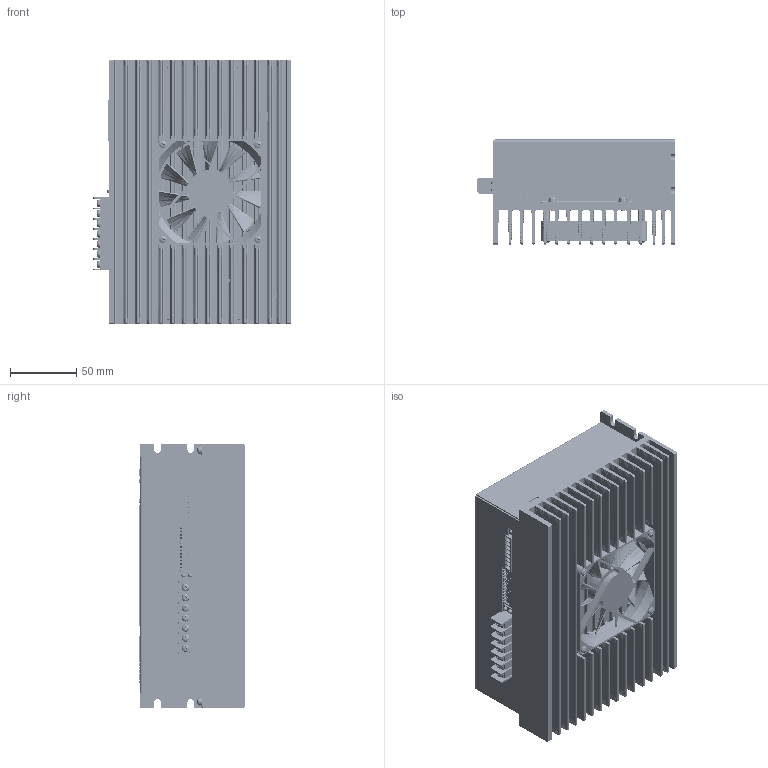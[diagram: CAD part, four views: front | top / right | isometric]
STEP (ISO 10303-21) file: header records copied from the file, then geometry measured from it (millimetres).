
FILE_DESCRIPTION(('CATIA V5 STEP Exchange','CAx-IF Rec.Pracs.--- Composite Materials ---3.4---2017-06-13'),'2;1');
FILE_NAME('E:\【1】\新建文件夹 (138)\DP3L-11022A3-官网图+EPLAN图-240923.stp','2025-04-03T08:12:56+00:00',('none'),('none'),'CATIA Version 5-6 Release 2020','CATIA V5 STEP AP203 v1','none');
FILE_SCHEMA(('CONFIG_CONTROL_DESIGN'));
Products named in the file (1): _model1
Bounding box: 148.64 x 79.2 x 199.5 mm (x, y, z)
Volume: 1481065.3 mm3; surface area: 377298.5 mm2
Topology: 789 solids, 790 shells, 13326 faces, 36498 edges, 24847 vertices
Faces by surface type: plane 7022, cylinder 3876, extrusion 1637, bspline 681, cone 60, revolution 26, torus 12, sphere 12
Entity records: 566301 total; most frequent: CARTESIAN_POINT 261059, ORIENTED_EDGE 72980, DIRECTION 43444, EDGE_CURVE 36494, VERTEX_POINT 24847, VECTOR 23003, LINE 21366, EDGE_LOOP 14302
